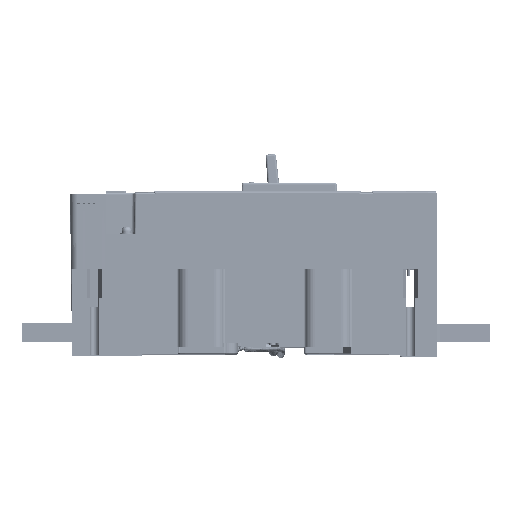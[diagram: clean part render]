
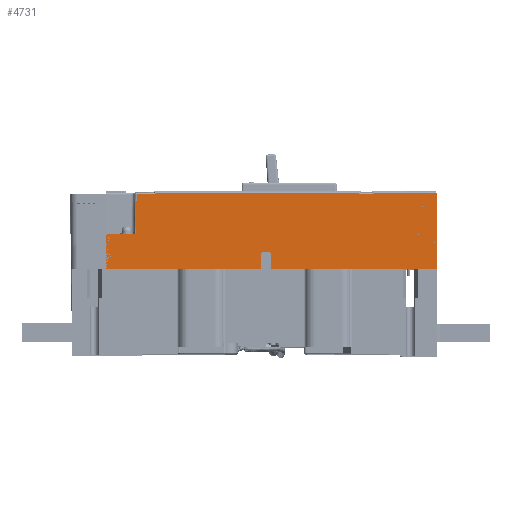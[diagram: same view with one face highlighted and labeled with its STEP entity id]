
A CAD part, top view. The second image highlights one B-rep face of the part: STEP entity #4731.
In plain terms, the highlighted planar face has unit normal (0, 0, 1).
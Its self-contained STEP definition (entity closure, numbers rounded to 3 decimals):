
#2587 = VERTEX_POINT ( 'NONE', #21536 ) ;
#2589 = EDGE_CURVE ( 'NONE', #2590, #2587, #21527, .T. ) ;
#2590 = VERTEX_POINT ( 'NONE', #21516 ) ;
#4607 = VERTEX_POINT ( 'NONE', #30016 ) ;
#4609 = EDGE_CURVE ( 'NONE', #4635, #4607, #30013, .T. ) ;
#4635 = VERTEX_POINT ( 'NONE', #30293 ) ;
#4647 = VERTEX_POINT ( 'NONE', #30207 ) ;
#4649 = EDGE_CURVE ( 'NONE', #4767, #4647, #30367, .T. ) ;
#4660 = VERTEX_POINT ( 'NONE', #30357 ) ;
#4663 = EDGE_CURVE ( 'NONE', #4694, #4660, #30355, .T. ) ;
#4678 = VERTEX_POINT ( 'NONE', #30467 ) ;
#4681 = EDGE_CURVE ( 'NONE', #4711, #4678, #30465, .T. ) ;
#4694 = VERTEX_POINT ( 'NONE', #30393 ) ;
#4698 = EDGE_CURVE ( 'NONE', #4678, #4694, #30392, .T. ) ;
#4711 = VERTEX_POINT ( 'NONE', #30500 ) ;
#4715 = EDGE_CURVE ( 'NONE', #4607, #4711, #30498, .T. ) ;
#4731 = ADVANCED_FACE ( 'NONE', ( #30600 ), #30593, .F. ) ;
#4735 = EDGE_LOOP ( 'NONE', ( #4737, #4740, #4743, #4746, #4749, #4833, #4834, #4836, #4838, #4839, #4840, #4841 ) ) ;
#4737 = ORIENTED_EDGE ( 'NONE', *, *, #4765, .T. ) ;
#4740 = ORIENTED_EDGE ( 'NONE', *, *, #4741, .F. ) ;
#4741 = EDGE_CURVE ( 'NONE', #4742, #4762, #30580, .T. ) ;
#4742 = VERTEX_POINT ( 'NONE', #30573 ) ;
#4743 = ORIENTED_EDGE ( 'NONE', *, *, #4744, .F. ) ;
#4744 = EDGE_CURVE ( 'NONE', #2590, #4742, #30563, .T. ) ;
#4746 = ORIENTED_EDGE ( 'NONE', *, *, #2589, .T. ) ;
#4749 = ORIENTED_EDGE ( 'NONE', *, *, #4750, .F. ) ;
#4750 = EDGE_CURVE ( 'NONE', #4635, #2587, #30552, .T. ) ;
#4762 = VERTEX_POINT ( 'NONE', #30641 ) ;
#4765 = EDGE_CURVE ( 'NONE', #4647, #4762, #30675, .T. ) ;
#4767 = VERTEX_POINT ( 'NONE', #30807 ) ;
#4769 = EDGE_CURVE ( 'NONE', #4660, #4767, #30804, .T. ) ;
#4833 = ORIENTED_EDGE ( 'NONE', *, *, #4609, .T. ) ;
#4834 = ORIENTED_EDGE ( 'NONE', *, *, #4715, .T. ) ;
#4836 = ORIENTED_EDGE ( 'NONE', *, *, #4681, .T. ) ;
#4838 = ORIENTED_EDGE ( 'NONE', *, *, #4698, .T. ) ;
#4839 = ORIENTED_EDGE ( 'NONE', *, *, #4663, .T. ) ;
#4840 = ORIENTED_EDGE ( 'NONE', *, *, #4769, .T. ) ;
#4841 = ORIENTED_EDGE ( 'NONE', *, *, #4649, .T. ) ;
#21516 = CARTESIAN_POINT ( 'NONE',  ( -160.615, 22.25, 270.342 ) ) ;
#21519 = DIRECTION ( 'NONE',  ( 1., 0., 0. ) ) ;
#21521 = VECTOR ( 'NONE', #21519, 1000. ) ;
#21524 = CARTESIAN_POINT ( 'NONE',  ( 165.1, 22.25, 270.342 ) ) ;
#21527 = LINE ( 'NONE', #21524, #21521 ) ;
#21536 = CARTESIAN_POINT ( 'NONE',  ( 166.8, 22.25, 270.342 ) ) ;
#30013 = LINE ( 'NONE', #30171, #30169 ) ;
#30016 = CARTESIAN_POINT ( 'NONE',  ( 104.45, 97.1, 270.342 ) ) ;
#30168 = DIRECTION ( 'NONE',  ( -1., 0., 0. ) ) ;
#30169 = VECTOR ( 'NONE', #30168, 1000. ) ;
#30171 = CARTESIAN_POINT ( 'NONE',  ( 102.45, 97.1, 270.342 ) ) ;
#30207 = CARTESIAN_POINT ( 'NONE',  ( -129.914, 95.9, 270.342 ) ) ;
#30293 = CARTESIAN_POINT ( 'NONE',  ( 166.8, 97.1, 270.342 ) ) ;
#30320 = DIRECTION ( 'NONE',  ( -1., 0., 0. ) ) ;
#30323 = VECTOR ( 'NONE', #30320, 1000. ) ;
#30327 = CARTESIAN_POINT ( 'NONE',  ( -112.615, 97.1, 270.342 ) ) ;
#30355 = LINE ( 'NONE', #30327, #30323 ) ;
#30357 = CARTESIAN_POINT ( 'NONE',  ( -110.615, 97.1, 270.342 ) ) ;
#30362 = DIRECTION ( 'NONE',  ( -1., 0., 0. ) ) ;
#30364 = VECTOR ( 'NONE', #30362, 1000. ) ;
#30366 = CARTESIAN_POINT ( 'NONE',  ( 165.1, 95.9, 270.342 ) ) ;
#30367 = LINE ( 'NONE', #30366, #30364 ) ;
#30392 = LINE ( 'NONE', #30520, #30518 ) ;
#30393 = CARTESIAN_POINT ( 'NONE',  ( 90.075, 97.1, 270.342 ) ) ;
#30420 = DIRECTION ( 'NONE',  ( -1., 0., 0. ) ) ;
#30421 = VECTOR ( 'NONE', #30420, 1000. ) ;
#30425 = CARTESIAN_POINT ( 'NONE',  ( 165.1, 95.9, 270.342 ) ) ;
#30465 = LINE ( 'NONE', #30425, #30421 ) ;
#30467 = CARTESIAN_POINT ( 'NONE',  ( 90.075, 95.9, 270.342 ) ) ;
#30469 = CARTESIAN_POINT ( 'NONE',  ( 104.45, 99.1, 270.342 ) ) ;
#30498 = LINE ( 'NONE', #30469, #30638 ) ;
#30500 = CARTESIAN_POINT ( 'NONE',  ( 104.45, 95.9, 270.342 ) ) ;
#30517 = DIRECTION ( 'NONE',  ( 0., 1., 0. ) ) ;
#30518 = VECTOR ( 'NONE', #30517, 1000. ) ;
#30520 = CARTESIAN_POINT ( 'NONE',  ( 90.075, 99.1, 270.342 ) ) ;
#30544 = DIRECTION ( 'NONE',  ( 0., -1., 0. ) ) ;
#30546 = VECTOR ( 'NONE', #30544, 1000. ) ;
#30550 = CARTESIAN_POINT ( 'NONE',  ( 166.8, 99.1, 270.342 ) ) ;
#30552 = LINE ( 'NONE', #30550, #30546 ) ;
#30558 = DIRECTION ( 'NONE',  ( 0., 1., 0. ) ) ;
#30560 = VECTOR ( 'NONE', #30558, 1000. ) ;
#30562 = CARTESIAN_POINT ( 'NONE',  ( -160.615, 22.25, 270.342 ) ) ;
#30563 = LINE ( 'NONE', #30562, #30560 ) ;
#30573 = CARTESIAN_POINT ( 'NONE',  ( -160.615, 56.6, 270.342 ) ) ;
#30574 = DIRECTION ( 'NONE',  ( 1., 0., 0. ) ) ;
#30577 = VECTOR ( 'NONE', #30574, 1000. ) ;
#30579 = CARTESIAN_POINT ( 'NONE',  ( -146.258, 56.6, 270.342 ) ) ;
#30580 = LINE ( 'NONE', #30579, #30577 ) ;
#30587 = DIRECTION ( 'NONE',  ( -1., 0., 0. ) ) ;
#30589 = DIRECTION ( 'NONE',  ( 0., 0., -1. ) ) ;
#30590 = CARTESIAN_POINT ( 'NONE',  ( 165.1, 99.1, 270.342 ) ) ;
#30591 = AXIS2_PLACEMENT_3D ( 'NONE', #30590, #30589, #30587 ) ;
#30593 = PLANE ( 'NONE',  #30591 ) ;
#30600 = FACE_OUTER_BOUND ( 'NONE', #4735, .T. ) ;
#30637 = DIRECTION ( 'NONE',  ( 0., -1., 0. ) ) ;
#30638 = VECTOR ( 'NONE', #30637, 1000. ) ;
#30641 = CARTESIAN_POINT ( 'NONE',  ( -130.257, 56.6, 270.342 ) ) ;
#30675 = LINE ( 'NONE', #30826, #30824 ) ;
#30765 = DIRECTION ( 'NONE',  ( 0., -1., 0. ) ) ;
#30766 = VECTOR ( 'NONE', #30765, 1000. ) ;
#30769 = CARTESIAN_POINT ( 'NONE',  ( -110.615, 99.1, 270.342 ) ) ;
#30804 = LINE ( 'NONE', #30769, #30766 ) ;
#30807 = CARTESIAN_POINT ( 'NONE',  ( -110.615, 95.9, 270.342 ) ) ;
#30822 = DIRECTION ( 'NONE',  ( -0.009, -1., 0. ) ) ;
#30824 = VECTOR ( 'NONE', #30822, 1000. ) ;
#30826 = CARTESIAN_POINT ( 'NONE',  ( -129.864, 101.674, 270.342 ) ) ;
